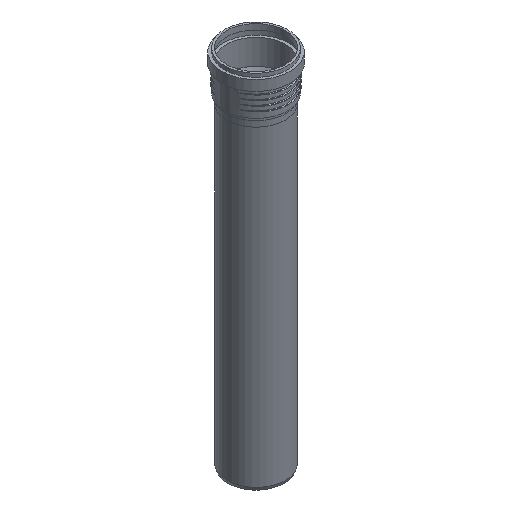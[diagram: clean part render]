
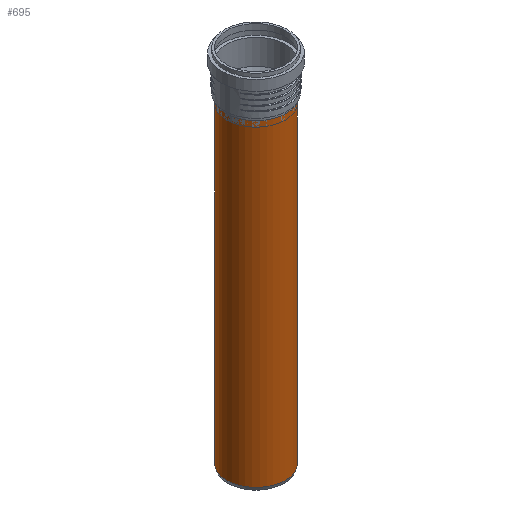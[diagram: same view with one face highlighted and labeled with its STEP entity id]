
A CAD part, isometric view. The second image highlights one B-rep face of the part: STEP entity #695.
In plain terms, the highlighted cylindrical face has radius 45.1 mm (diameter 90.2 mm), a full revolution.
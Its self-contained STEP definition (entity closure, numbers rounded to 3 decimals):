
#94=CYLINDRICAL_SURFACE($,#750,45.1);
#118=FACE_BOUND($,#198,.T.);
#153=FACE_OUTER_BOUND($,#197,.T.);
#197=EDGE_LOOP($,(#472));
#198=EDGE_LOOP($,(#473));
#272=CIRCLE($,#747,45.1);
#274=CIRCLE($,#751,45.1);
#311=VERTEX_POINT($,#1021);
#313=VERTEX_POINT($,#1027);
#382=EDGE_CURVE($,#311,#311,#272,.T.);
#384=EDGE_CURVE($,#313,#313,#274,.T.);
#472=ORIENTED_EDGE($,*,*,#384,.T.);
#473=ORIENTED_EDGE($,*,*,#382,.F.);
#695=ADVANCED_FACE($,(#153,#118),#94,.T.);
#747=AXIS2_PLACEMENT_3D($,#1022,#841,#842);
#750=AXIS2_PLACEMENT_3D($,#1026,#847,#848);
#751=AXIS2_PLACEMENT_3D($,#1028,#849,#850);
#841=DIRECTION('center_axis',(0.,0.,-1.));
#842=DIRECTION('ref_axis',(-1.,0.,0.));
#847=DIRECTION('center_axis',(0.,0.,1.));
#848=DIRECTION('ref_axis',(-1.,0.,0.));
#849=DIRECTION('center_axis',(0.,0.,-1.));
#850=DIRECTION('ref_axis',(-1.,0.,0.));
#1021=CARTESIAN_POINT('',(45.1,0.,-243.7));
#1022=CARTESIAN_POINT('Origin',(0.,0.,-243.7));
#1026=CARTESIAN_POINT('Origin',(0.,0.,0.));
#1027=CARTESIAN_POINT('',(45.1,0.,248.2));
#1028=CARTESIAN_POINT('Origin',(0.,0.,248.2));
